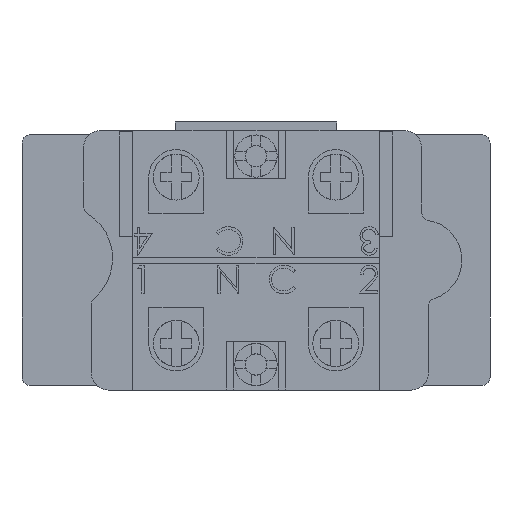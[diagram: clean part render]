
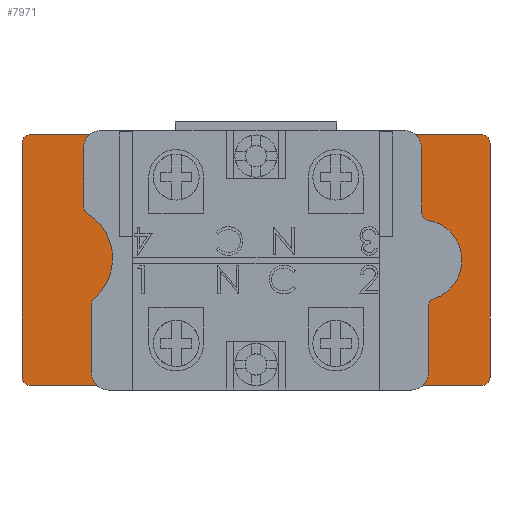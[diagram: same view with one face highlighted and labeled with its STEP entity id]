
A CAD part, front view. The second image highlights one B-rep face of the part: STEP entity #7971.
In plain terms, the highlighted planar face has unit normal (0, -1, 0).
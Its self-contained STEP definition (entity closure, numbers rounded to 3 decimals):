
#1204 = EDGE_CURVE ( 'NONE', #5299, #5305, #8062, .T. ) ;
#1205 = EDGE_CURVE ( 'NONE', #5299, #5300, #12202, .T. ) ;
#1206 = EDGE_CURVE ( 'NONE', #5301, #5300, #8061, .T. ) ;
#1207 = EDGE_CURVE ( 'NONE', #5301, #5302, #12208, .T. ) ;
#1208 = EDGE_CURVE ( 'NONE', #5303, #5302, #8063, .T. ) ;
#1209 = EDGE_CURVE ( 'NONE', #5303, #5304, #12214, .T. ) ;
#1210 = EDGE_CURVE ( 'NONE', #5306, #5305, #12217, .T. ) ;
#1211 = EDGE_CURVE ( 'NONE', #5306, #5304, #8064, .T. ) ;
#1291 = EDGE_CURVE ( 'NONE', #2345, #2346, #8095, .T. ) ;
#1419 = EDGE_CURVE ( 'NONE', #2346, #2345, #8138, .T. ) ;
#2345 = VERTEX_POINT ( 'NONE', #15413 ) ;
#2346 = VERTEX_POINT ( 'NONE', #15414 ) ;
#4113 = ORIENTED_EDGE ( 'NONE', *, *, #1210, .F. ) ;
#4114 = ORIENTED_EDGE ( 'NONE', *, *, #1209, .F. ) ;
#4115 = ORIENTED_EDGE ( 'NONE', *, *, #1211, .T. ) ;
#4116 = ORIENTED_EDGE ( 'NONE', *, *, #1208, .T. ) ;
#4117 = ORIENTED_EDGE ( 'NONE', *, *, #1207, .F. ) ;
#4118 = ORIENTED_EDGE ( 'NONE', *, *, #1206, .T. ) ;
#4119 = ORIENTED_EDGE ( 'NONE', *, *, #1205, .F. ) ;
#4120 = ORIENTED_EDGE ( 'NONE', *, *, #1204, .T. ) ;
#4122 = ORIENTED_EDGE ( 'NONE', *, *, #1291, .F. ) ;
#4123 = ORIENTED_EDGE ( 'NONE', *, *, #1419, .F. ) ;
#5242 = EDGE_LOOP ( 'NONE', ( #4113, #4115, #4114, #4116, #4117, #4118, #4119, #4120 ) ) ;
#5243 = EDGE_LOOP ( 'NONE', ( #4123, #4122 ) ) ;
#5299 = VERTEX_POINT ( 'NONE', #15835 ) ;
#5300 = VERTEX_POINT ( 'NONE', #15836 ) ;
#5301 = VERTEX_POINT ( 'NONE', #15837 ) ;
#5302 = VERTEX_POINT ( 'NONE', #15838 ) ;
#5303 = VERTEX_POINT ( 'NONE', #15839 ) ;
#5304 = VERTEX_POINT ( 'NONE', #15840 ) ;
#5305 = VERTEX_POINT ( 'NONE', #15841 ) ;
#5306 = VERTEX_POINT ( 'NONE', #15842 ) ;
#7971 = ADVANCED_FACE ( 'NONE', ( #18406, #18401 ), #17193, .T. ) ;
#8061 = CIRCLE ( 'NONE', #23457, 1. ) ;
#8062 = CIRCLE ( 'NONE', #24027, 1. ) ;
#8063 = CIRCLE ( 'NONE', #23507, 1. ) ;
#8064 = CIRCLE ( 'NONE', #23987, 1. ) ;
#8095 = CIRCLE ( 'NONE', #23980, 12.9 ) ;
#8138 = CIRCLE ( 'NONE', #23468, 12.9 ) ;
#12123 = CARTESIAN_POINT ( 'NONE',  ( -26.5, 13.05, 13.75 ) ) ;
#12199 = DIRECTION ( 'NONE',  ( 0., -1., 0. ) ) ;
#12200 = DIRECTION ( 'NONE',  ( 0., 0., -1. ) ) ;
#12201 = CARTESIAN_POINT ( 'NONE',  ( 26.5, 13.05, 13.75 ) ) ;
#12202 = LINE ( 'NONE', #12203, #24025 ) ;
#12203 = CARTESIAN_POINT ( 'NONE',  ( -27.5, 13.05, 14.75 ) ) ;
#12204 = DIRECTION ( 'NONE',  ( 1., 0., 0. ) ) ;
#12205 = DIRECTION ( 'NONE',  ( 0., -1., 0. ) ) ;
#12206 = DIRECTION ( 'NONE',  ( 0., 0., -1. ) ) ;
#12207 = CARTESIAN_POINT ( 'NONE',  ( 26.5, 13.05, -13.75 ) ) ;
#12208 = LINE ( 'NONE', #12209, #23893 ) ;
#12209 = CARTESIAN_POINT ( 'NONE',  ( 27.5, 13.05, 14.75 ) ) ;
#12210 = DIRECTION ( 'NONE',  ( 0., 0., -1. ) ) ;
#12211 = DIRECTION ( 'NONE',  ( 0., -1., 0. ) ) ;
#12212 = DIRECTION ( 'NONE',  ( 0., 0., -1. ) ) ;
#12213 = CARTESIAN_POINT ( 'NONE',  ( -26.5, 13.05, -13.75 ) ) ;
#12214 = LINE ( 'NONE', #12215, #24023 ) ;
#12215 = CARTESIAN_POINT ( 'NONE',  ( -27.5, 13.05, -14.75 ) ) ;
#12216 = DIRECTION ( 'NONE',  ( -1., 0., 0. ) ) ;
#12217 = LINE ( 'NONE', #12218, #24026 ) ;
#12218 = CARTESIAN_POINT ( 'NONE',  ( -27.5, 13.05, 14.75 ) ) ;
#12219 = DIRECTION ( 'NONE',  ( 0., 0., 1. ) ) ;
#12220 = DIRECTION ( 'NONE',  ( 0., -1., 0. ) ) ;
#12221 = DIRECTION ( 'NONE',  ( 0., 0., -1. ) ) ;
#12444 = CARTESIAN_POINT ( 'NONE',  ( 0., 13.05, 0. ) ) ;
#12460 = DIRECTION ( 'NONE',  ( 0., -1., 0. ) ) ;
#12461 = DIRECTION ( 'NONE',  ( 0., 0., -1. ) ) ;
#12915 = CARTESIAN_POINT ( 'NONE',  ( 0., 13.05, 0. ) ) ;
#12916 = DIRECTION ( 'NONE',  ( 0., -1., 0. ) ) ;
#12917 = DIRECTION ( 'NONE',  ( 0., 0., -1. ) ) ;
#15413 = CARTESIAN_POINT ( 'NONE',  ( 0., 13.05, 12.9 ) ) ;
#15414 = CARTESIAN_POINT ( 'NONE',  ( 0., 13.05, -12.9 ) ) ;
#15835 = CARTESIAN_POINT ( 'NONE',  ( -26.5, 13.05, 14.75 ) ) ;
#15836 = CARTESIAN_POINT ( 'NONE',  ( 26.5, 13.05, 14.75 ) ) ;
#15837 = CARTESIAN_POINT ( 'NONE',  ( 27.5, 13.05, 13.75 ) ) ;
#15838 = CARTESIAN_POINT ( 'NONE',  ( 27.5, 13.05, -13.75 ) ) ;
#15839 = CARTESIAN_POINT ( 'NONE',  ( 26.5, 13.05, -14.75 ) ) ;
#15840 = CARTESIAN_POINT ( 'NONE',  ( -26.5, 13.05, -14.75 ) ) ;
#15841 = CARTESIAN_POINT ( 'NONE',  ( -27.5, 13.05, 13.75 ) ) ;
#15842 = CARTESIAN_POINT ( 'NONE',  ( -27.5, 13.05, -13.75 ) ) ;
#17193 = PLANE ( 'NONE',  #18068 ) ;
#17194 = CARTESIAN_POINT ( 'NONE',  ( 0., 13.05, 0. ) ) ;
#17195 = DIRECTION ( 'NONE',  ( 0., -1., 0. ) ) ;
#17197 = DIRECTION ( 'NONE',  ( 0., 0., -1. ) ) ;
#18068 = AXIS2_PLACEMENT_3D ( 'NONE', #17194, #17195, #17197 ) ;
#18401 = FACE_BOUND ( 'NONE', #5243, .T. ) ;
#18406 = FACE_OUTER_BOUND ( 'NONE', #5242, .T. ) ;
#23457 = AXIS2_PLACEMENT_3D ( 'NONE', #12201, #12205, #12206 ) ;
#23468 = AXIS2_PLACEMENT_3D ( 'NONE', #12915, #12916, #12917 ) ;
#23507 = AXIS2_PLACEMENT_3D ( 'NONE', #12207, #12211, #12212 ) ;
#23893 = VECTOR ( 'NONE', #12210, 1000. ) ;
#23980 = AXIS2_PLACEMENT_3D ( 'NONE', #12444, #12460, #12461 ) ;
#23987 = AXIS2_PLACEMENT_3D ( 'NONE', #12213, #12220, #12221 ) ;
#24023 = VECTOR ( 'NONE', #12216, 1000. ) ;
#24025 = VECTOR ( 'NONE', #12204, 1000. ) ;
#24026 = VECTOR ( 'NONE', #12219, 1000. ) ;
#24027 = AXIS2_PLACEMENT_3D ( 'NONE', #12123, #12199, #12200 ) ;
